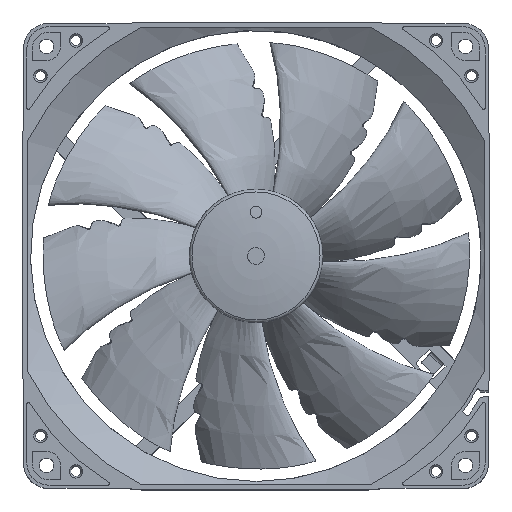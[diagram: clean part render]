
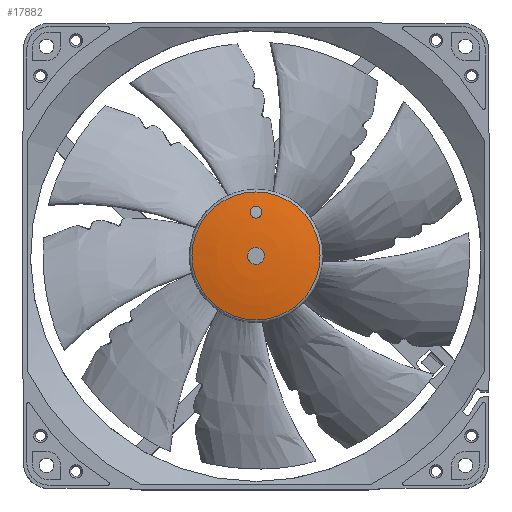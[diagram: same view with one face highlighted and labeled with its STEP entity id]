
A CAD part, top view. The second image highlights one B-rep face of the part: STEP entity #17882.
In plain terms, the highlighted toroidal (fillet/blend) face has major radius 2.5 mm and minor radius 75.823 mm.
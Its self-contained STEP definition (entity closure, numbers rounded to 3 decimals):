
#20=DEGENERATE_TOROIDAL_SURFACE('',#19864,2.5,75.822,.T.);
#123=(
BOUNDED_CURVE()
B_SPLINE_CURVE(3,(#33782,#33783,#33784,#33785),.UNSPECIFIED.,.F.,.F.)
B_SPLINE_CURVE_WITH_KNOTS((4,4),(0.,1.),.UNSPECIFIED.)
CURVE()
GEOMETRIC_REPRESENTATION_ITEM()
RATIONAL_B_SPLINE_CURVE((1.,0.333,0.333,1.))
REPRESENTATION_ITEM('')
);
#124=(
BOUNDED_CURVE()
B_SPLINE_CURVE(3,(#33788,#33789,#33790,#33791),.UNSPECIFIED.,.F.,.F.)
B_SPLINE_CURVE_WITH_KNOTS((4,4),(0.,1.),.UNSPECIFIED.)
CURVE()
GEOMETRIC_REPRESENTATION_ITEM()
RATIONAL_B_SPLINE_CURVE((1.,0.333,0.333,1.))
REPRESENTATION_ITEM('')
);
#773=B_SPLINE_CURVE_WITH_KNOTS('',3,(#33739,#33740,#33741,#33742,#33743,
#33744,#33745,#33746,#33747,#33748,#33749,#33750,#33751,#33752,#33753,#33754,
#33755,#33756,#33757,#33758,#33759),.UNSPECIFIED.,.F.,.F.,(4,1,1,1,1,1,
1,1,1,1,1,1,1,1,1,1,1,1,4),(0.,0.063,0.094,
0.125,0.156,0.188,0.25,
0.313,0.375,0.5,0.625,
0.688,0.75,0.813,0.844,
0.875,0.906,0.938,1.),.UNSPECIFIED.);
#774=B_SPLINE_CURVE_WITH_KNOTS('',3,(#33762,#33763,#33764,#33765,#33766,
#33767,#33768,#33769,#33770,#33771,#33772,#33773,#33774,#33775,#33776,#33777,
#33778,#33779,#33780),.UNSPECIFIED.,.F.,.F.,(4,1,1,1,1,1,1,1,1,1,1,1,1,
1,1,1,4),(0.,0.125,0.188,0.219,
0.25,0.281,0.313,0.375,
0.5,0.625,0.688,0.719,
0.75,0.781,0.813,0.875,
1.),.UNSPECIFIED.);
#8286=ORIENTED_EDGE('',*,*,#11585,.T.);
#8287=ORIENTED_EDGE('',*,*,#11586,.T.);
#8288=ORIENTED_EDGE('',*,*,#11584,.T.);
#8289=ORIENTED_EDGE('',*,*,#11583,.T.);
#8290=ORIENTED_EDGE('',*,*,#11587,.F.);
#11583=EDGE_CURVE('',#13592,#13593,#773,.F.);
#11584=EDGE_CURVE('',#13593,#13592,#774,.F.);
#11585=EDGE_CURVE('',#13594,#13595,#123,.T.);
#11586=EDGE_CURVE('',#13595,#13594,#124,.T.);
#11587=EDGE_CURVE('',#13596,#13596,#14540,.T.);
#13592=VERTEX_POINT('',#33760);
#13593=VERTEX_POINT('',#33761);
#13594=VERTEX_POINT('',#33786);
#13595=VERTEX_POINT('',#33787);
#13596=VERTEX_POINT('',#33794);
#14540=CIRCLE('',#19865,19.018);
#15469=EDGE_LOOP('',(#8286,#8287));
#15470=EDGE_LOOP('',(#8288,#8289));
#15471=EDGE_LOOP('',(#8290));
#16538=FACE_BOUND('',#15469,.T.);
#16539=FACE_BOUND('',#15470,.T.);
#16540=FACE_BOUND('',#15471,.T.);
#17882=ADVANCED_FACE('',(#16538,#16539,#16540),#20,.T.);
#19864=AXIS2_PLACEMENT_3D('',#33792,#23861,#23862);
#19865=AXIS2_PLACEMENT_3D('',#33793,#23863,#23864);
#23861=DIRECTION('',(0.,0.,1.));
#23862=DIRECTION('',(1.,0.,0.));
#23863=DIRECTION('',(0.,0.,-1.));
#23864=DIRECTION('',(-1.,0.,0.));
#33739=CARTESIAN_POINT('',(1.75,13.,23.553));
#33740=CARTESIAN_POINT('',(1.75,13.16,23.531));
#33741=CARTESIAN_POINT('',(1.72,13.361,23.502));
#33742=CARTESIAN_POINT('',(1.656,13.568,23.473));
#33743=CARTESIAN_POINT('',(1.628,13.649,23.461));
#33744=CARTESIAN_POINT('',(1.538,13.843,23.434));
#33745=CARTESIAN_POINT('',(1.416,14.037,23.406));
#33746=CARTESIAN_POINT('',(1.256,14.235,23.378));
#33747=CARTESIAN_POINT('',(0.964,14.476,23.344));
#33748=CARTESIAN_POINT('',(0.55,14.688,23.313));
#33749=CARTESIAN_POINT('',(-0.002,14.792,23.298));
#33750=CARTESIAN_POINT('',(-0.553,14.687,23.313));
#33751=CARTESIAN_POINT('',(-0.966,14.475,23.344));
#33752=CARTESIAN_POINT('',(-1.257,14.234,23.378));
#33753=CARTESIAN_POINT('',(-1.417,14.036,23.406));
#33754=CARTESIAN_POINT('',(-1.539,13.843,23.434));
#33755=CARTESIAN_POINT('',(-1.628,13.648,23.462));
#33756=CARTESIAN_POINT('',(-1.656,13.568,23.473));
#33757=CARTESIAN_POINT('',(-1.72,13.36,23.503));
#33758=CARTESIAN_POINT('',(-1.75,13.16,23.531));
#33759=CARTESIAN_POINT('',(-1.75,13.,23.553));
#33760=CARTESIAN_POINT('',(-1.75,13.,23.553));
#33761=CARTESIAN_POINT('',(1.75,13.,23.553));
#33762=CARTESIAN_POINT('',(-1.75,13.,23.553));
#33763=CARTESIAN_POINT('',(-1.75,12.706,23.594));
#33764=CARTESIAN_POINT('',(-1.638,12.319,23.647));
#33765=CARTESIAN_POINT('',(-1.446,12.005,23.69));
#33766=CARTESIAN_POINT('',(-1.323,11.853,23.712));
#33767=CARTESIAN_POINT('',(-1.252,11.774,23.723));
#33768=CARTESIAN_POINT('',(-1.105,11.638,23.741));
#33769=CARTESIAN_POINT('',(-0.919,11.503,23.759));
#33770=CARTESIAN_POINT('',(-0.553,11.311,23.785));
#33771=CARTESIAN_POINT('',(0.002,11.209,23.799));
#33772=CARTESIAN_POINT('',(0.555,11.312,23.785));
#33773=CARTESIAN_POINT('',(0.92,11.504,23.759));
#33774=CARTESIAN_POINT('',(1.107,11.64,23.741));
#33775=CARTESIAN_POINT('',(1.253,11.775,23.722));
#33776=CARTESIAN_POINT('',(1.324,11.854,23.711));
#33777=CARTESIAN_POINT('',(1.447,12.006,23.69));
#33778=CARTESIAN_POINT('',(1.638,12.319,23.646));
#33779=CARTESIAN_POINT('',(1.75,12.706,23.594));
#33780=CARTESIAN_POINT('',(1.75,13.,23.553));
#33782=CARTESIAN_POINT('',(-2.5,0.,24.3));
#33783=CARTESIAN_POINT('',(-2.5,5.,24.3));
#33784=CARTESIAN_POINT('',(2.5,5.,24.3));
#33785=CARTESIAN_POINT('',(2.5,0.,24.3));
#33786=CARTESIAN_POINT('',(-2.5,0.,24.3));
#33787=CARTESIAN_POINT('',(2.5,0.,24.3));
#33788=CARTESIAN_POINT('',(2.5,0.,24.3));
#33789=CARTESIAN_POINT('',(2.5,-5.,24.3));
#33790=CARTESIAN_POINT('',(-2.5,-5.,24.3));
#33791=CARTESIAN_POINT('',(-2.5,0.,24.3));
#33792=CARTESIAN_POINT('',(0.,0.,-51.522));
#33793=CARTESIAN_POINT('',(0.,0.,22.479));
#33794=CARTESIAN_POINT('',(-19.018,0.,22.479));
